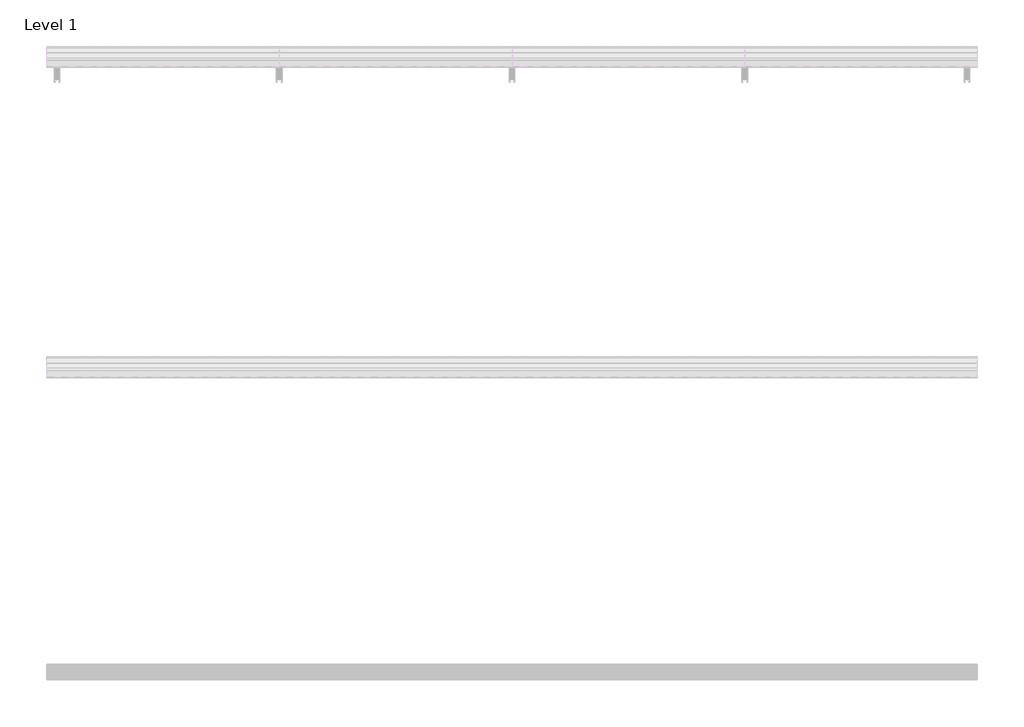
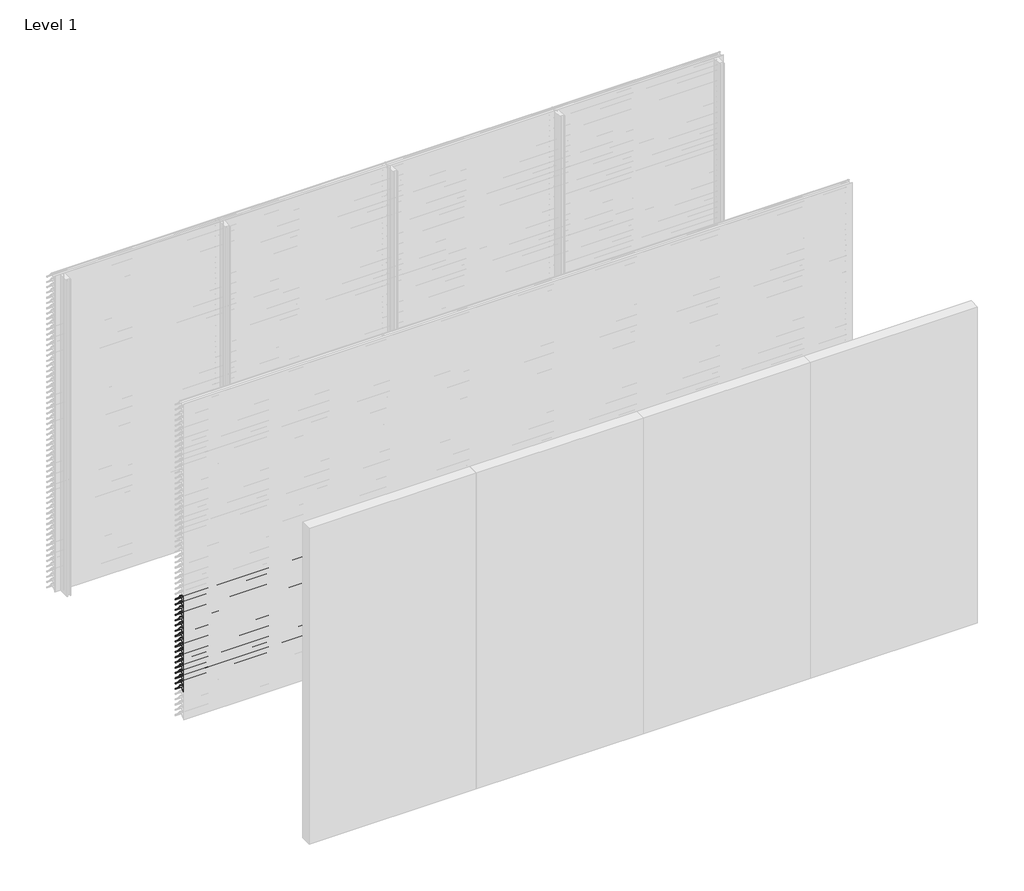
# One storey, part 108 of 173: 18 proxies.
"""IFC4 building model written with IfcOpenShell, lengths in millimetres."""

from ifc_helpers import new_model, si_unit, point, frame, frame_2d, origin, place, context, project, spatial, polyline, circle_curve, trimmed, segment, composite_curve, outline, extrude, element, save

model = new_model("IFC4")

# Units and contexts
model_context = context("Model", 3, world=origin())
ifc_project = project(units=[si_unit("LENGTHUNIT", "METRE", prefix="MILLI")], contexts=[model_context])

# Site, building, storey
site = spatial("IfcSite", under=ifc_project)
building = spatial("IfcBuilding", under=site)
storey = spatial("IfcBuildingStorey", under=building, Name="Level 1", Elevation=0.0)

# Proxies
placement = place(None, origin())
element("IfcBuildingElementProxy", 1, Name="Wall Sweeps", at=placement, inside=storey, context=model_context, shape_type="SweptSolid", body=[
    extrude(outline(composite_curve([segment(polyline([(-19998.0, 1109.1474905), (-19998.0, 1111.6227417)]), True, "CONTINUOUS"), segment(trimmed(circle_curve(frame_2d((-19951.2682172, 1066.2200208)), 65.1557103), [point((-19998.0, 1111.6227417))], [point((-19954.4014323, 1131.3003524))], False, "CARTESIAN"), True, "CONTINUOUS"), segment(polyline([(-19954.4014323, 1131.3003524), (-19934.8315836, 1131.3003524)]), True, "CONTINUOUS"), segment(trimmed(circle_curve(frame_2d((-19732.7329489, 1278.5533172)), 250.0545817), [point((-19934.8315836, 1131.3003524))], [point((-19941.4452143, 1140.8344583))], False, "CARTESIAN"), True, "CONTINUOUS"), segment(trimmed(circle_curve(frame_2d((-19953.2981792, 1135.1737835)), 13.1352966), [point((-19941.4452143, 1140.8344583))], [point((-19953.8171475, 1148.298824))], True, "CARTESIAN"), True, "CONTINUOUS"), segment(polyline([(-19953.8171475, 1148.298824), (-19953.8171475, 1150.0)]), True, "CONTINUOUS"), segment(trimmed(circle_curve(frame_2d((-19953.2981792, 1135.1737835)), 14.8352966), [point((-19953.8171475, 1150.0))], [point((-19939.9637661, 1141.6760487))], False, "CARTESIAN"), True, "CONTINUOUS"), segment(trimmed(circle_curve(frame_2d((-19732.7329489, 1278.5533172)), 248.3545817), [point((-19939.9637661, 1141.6760487))], [point((-19873.8787895, 1074.2059416))], True, "CARTESIAN"), True, "CONTINUOUS"), segment(trimmed(circle_curve(frame_2d((-19883.8147537, 1061.6649442)), 16.0), [point((-19873.8787895, 1074.2059416))], [point((-19867.8648347, 1060.4))], False, "CARTESIAN"), True, "CONTINUOUS"), segment(polyline([(-19867.8648347, 1060.4), (-19869.6712069, 1060.4)]), True, "CONTINUOUS"), segment(trimmed(circle_curve(frame_2d((-19883.8147537, 1061.6649442)), 14.2), [point((-19869.6712069, 1060.4))], [point((-19874.9518628, 1072.7594998))], True, "CARTESIAN"), True, "CONTINUOUS"), segment(trimmed(circle_curve(frame_2d((-19732.7329489, 1278.5533172)), 250.1545817), [point((-19874.9518628, 1072.7594998))], [point((-19933.7064024, 1129.6003524))], False, "CARTESIAN"), True, "CONTINUOUS"), segment(polyline([(-19933.7064024, 1129.6003524), (-19954.3602632, 1129.6003524)]), True, "CONTINUOUS"), segment(trimmed(circle_curve(frame_2d((-19951.2682172, 1066.2200208)), 63.4557103), [point((-19954.3602632, 1129.6003524))], [point((-19998.0, 1109.1474905))], True, "CARTESIAN"), True, "CONTINUOUS")], self_intersect=False)), frame((0.0, 0.0, 0.0), z_axis=(1.0, 0.0, 0.0), x_axis=(0.0, 1.0, 0.0)), (0.0, 0.0, 1.0), 6000.0),
])
element("IfcBuildingElementProxy", 2, Name="Wall Sweeps", at=placement, inside=storey, context=model_context, shape_type="SweptSolid", body=[
    extrude(outline(composite_curve([segment(polyline([(-19998.0, 1059.1474905), (-19998.0, 1061.6227417)]), True, "CONTINUOUS"), segment(trimmed(circle_curve(frame_2d((-19951.2682172, 1016.2200208)), 65.1557103), [point((-19998.0, 1061.6227417))], [point((-19954.4014323, 1081.3003524))], False, "CARTESIAN"), True, "CONTINUOUS"), segment(polyline([(-19954.4014323, 1081.3003524), (-19934.8315836, 1081.3003524)]), True, "CONTINUOUS"), segment(trimmed(circle_curve(frame_2d((-19732.7329489, 1228.5533172)), 250.0545817), [point((-19934.8315836, 1081.3003524))], [point((-19941.4452143, 1090.8344583))], False, "CARTESIAN"), True, "CONTINUOUS"), segment(trimmed(circle_curve(frame_2d((-19953.2981792, 1085.1737835)), 13.1352966), [point((-19941.4452143, 1090.8344583))], [point((-19953.8171475, 1098.298824))], True, "CARTESIAN"), True, "CONTINUOUS"), segment(polyline([(-19953.8171475, 1098.298824), (-19953.8171475, 1100.0)]), True, "CONTINUOUS"), segment(trimmed(circle_curve(frame_2d((-19953.2981792, 1085.1737835)), 14.8352966), [point((-19953.8171475, 1100.0))], [point((-19939.9637661, 1091.6760487))], False, "CARTESIAN"), True, "CONTINUOUS"), segment(trimmed(circle_curve(frame_2d((-19732.7329489, 1228.5533172)), 248.3545817), [point((-19939.9637661, 1091.6760487))], [point((-19873.8787895, 1024.2059416))], True, "CARTESIAN"), True, "CONTINUOUS"), segment(trimmed(circle_curve(frame_2d((-19883.8147537, 1011.6649442)), 16.0), [point((-19873.8787895, 1024.2059416))], [point((-19867.8648347, 1010.4))], False, "CARTESIAN"), True, "CONTINUOUS"), segment(polyline([(-19867.8648347, 1010.4), (-19869.6712069, 1010.4)]), True, "CONTINUOUS"), segment(trimmed(circle_curve(frame_2d((-19883.8147537, 1011.6649442)), 14.2), [point((-19869.6712069, 1010.4))], [point((-19874.9518628, 1022.7594998))], True, "CARTESIAN"), True, "CONTINUOUS"), segment(trimmed(circle_curve(frame_2d((-19732.7329489, 1228.5533172)), 250.1545817), [point((-19874.9518628, 1022.7594998))], [point((-19933.7064024, 1079.6003524))], False, "CARTESIAN"), True, "CONTINUOUS"), segment(polyline([(-19933.7064024, 1079.6003524), (-19954.3602632, 1079.6003524)]), True, "CONTINUOUS"), segment(trimmed(circle_curve(frame_2d((-19951.2682172, 1016.2200208)), 63.4557103), [point((-19954.3602632, 1079.6003524))], [point((-19998.0, 1059.1474905))], True, "CARTESIAN"), True, "CONTINUOUS")], self_intersect=False)), frame((0.0, 0.0, 0.0), z_axis=(1.0, 0.0, 0.0), x_axis=(0.0, 1.0, 0.0)), (0.0, 0.0, 1.0), 6000.0),
])
element("IfcBuildingElementProxy", 3, Name="Wall Sweeps", at=placement, inside=storey, context=model_context, shape_type="SweptSolid", body=[
    extrude(outline(composite_curve([segment(polyline([(-19998.0, 1009.1474905), (-19998.0, 1011.6227417)]), True, "CONTINUOUS"), segment(trimmed(circle_curve(frame_2d((-19951.2682172, 966.2200208)), 65.1557103), [point((-19998.0, 1011.6227417))], [point((-19954.4014323, 1031.3003524))], False, "CARTESIAN"), True, "CONTINUOUS"), segment(polyline([(-19954.4014323, 1031.3003524), (-19934.8315836, 1031.3003524)]), True, "CONTINUOUS"), segment(trimmed(circle_curve(frame_2d((-19732.7329489, 1178.5533172)), 250.0545817), [point((-19934.8315836, 1031.3003524))], [point((-19941.4452143, 1040.8344583))], False, "CARTESIAN"), True, "CONTINUOUS"), segment(trimmed(circle_curve(frame_2d((-19953.2981792, 1035.1737835)), 13.1352966), [point((-19941.4452143, 1040.8344583))], [point((-19953.8171475, 1048.298824))], True, "CARTESIAN"), True, "CONTINUOUS"), segment(polyline([(-19953.8171475, 1048.298824), (-19953.8171475, 1050.0)]), True, "CONTINUOUS"), segment(trimmed(circle_curve(frame_2d((-19953.2981792, 1035.1737835)), 14.8352966), [point((-19953.8171475, 1050.0))], [point((-19939.9637661, 1041.6760487))], False, "CARTESIAN"), True, "CONTINUOUS"), segment(trimmed(circle_curve(frame_2d((-19732.7329489, 1178.5533172)), 248.3545817), [point((-19939.9637661, 1041.6760487))], [point((-19873.8787895, 974.2059416))], True, "CARTESIAN"), True, "CONTINUOUS"), segment(trimmed(circle_curve(frame_2d((-19883.8147537, 961.6649442)), 16.0), [point((-19873.8787895, 974.2059416))], [point((-19867.8648347, 960.4))], False, "CARTESIAN"), True, "CONTINUOUS"), segment(polyline([(-19867.8648347, 960.4), (-19869.6712069, 960.4)]), True, "CONTINUOUS"), segment(trimmed(circle_curve(frame_2d((-19883.8147537, 961.6649442)), 14.2), [point((-19869.6712069, 960.4))], [point((-19874.9518628, 972.7594998))], True, "CARTESIAN"), True, "CONTINUOUS"), segment(trimmed(circle_curve(frame_2d((-19732.7329489, 1178.5533172)), 250.1545817), [point((-19874.9518628, 972.7594998))], [point((-19933.7064024, 1029.6003524))], False, "CARTESIAN"), True, "CONTINUOUS"), segment(polyline([(-19933.7064024, 1029.6003524), (-19954.3602632, 1029.6003524)]), True, "CONTINUOUS"), segment(trimmed(circle_curve(frame_2d((-19951.2682172, 966.2200208)), 63.4557103), [point((-19954.3602632, 1029.6003524))], [point((-19998.0, 1009.1474905))], True, "CARTESIAN"), True, "CONTINUOUS")], self_intersect=False)), frame((0.0, 0.0, 0.0), z_axis=(1.0, 0.0, 0.0), x_axis=(0.0, 1.0, 0.0)), (0.0, 0.0, 1.0), 6000.0),
])
element("IfcBuildingElementProxy", 4, Name="Wall Sweeps", at=placement, inside=storey, context=model_context, shape_type="SweptSolid", body=[
    extrude(outline(composite_curve([segment(polyline([(-19998.0, 959.1474905), (-19998.0, 961.6227417)]), True, "CONTINUOUS"), segment(trimmed(circle_curve(frame_2d((-19951.2682172, 916.2200208)), 65.1557103), [point((-19998.0, 961.6227417))], [point((-19954.4014323, 981.3003524))], False, "CARTESIAN"), True, "CONTINUOUS"), segment(polyline([(-19954.4014323, 981.3003524), (-19934.8315836, 981.3003524)]), True, "CONTINUOUS"), segment(trimmed(circle_curve(frame_2d((-19732.7329489, 1128.5533172)), 250.0545817), [point((-19934.8315836, 981.3003524))], [point((-19941.4452143, 990.8344583))], False, "CARTESIAN"), True, "CONTINUOUS"), segment(trimmed(circle_curve(frame_2d((-19953.2981792, 985.1737835)), 13.1352966), [point((-19941.4452143, 990.8344583))], [point((-19953.8171475, 998.298824))], True, "CARTESIAN"), True, "CONTINUOUS"), segment(polyline([(-19953.8171475, 998.298824), (-19953.8171475, 1000.0)]), True, "CONTINUOUS"), segment(trimmed(circle_curve(frame_2d((-19953.2981792, 985.1737835)), 14.8352966), [point((-19953.8171475, 1000.0))], [point((-19939.9637661, 991.6760487))], False, "CARTESIAN"), True, "CONTINUOUS"), segment(trimmed(circle_curve(frame_2d((-19732.7329489, 1128.5533172)), 248.3545817), [point((-19939.9637661, 991.6760487))], [point((-19873.8787895, 924.2059416))], True, "CARTESIAN"), True, "CONTINUOUS"), segment(trimmed(circle_curve(frame_2d((-19883.8147537, 911.6649442)), 16.0), [point((-19873.8787895, 924.2059416))], [point((-19867.8648347, 910.4))], False, "CARTESIAN"), True, "CONTINUOUS"), segment(polyline([(-19867.8648347, 910.4), (-19869.6712069, 910.4)]), True, "CONTINUOUS"), segment(trimmed(circle_curve(frame_2d((-19883.8147537, 911.6649442)), 14.2), [point((-19869.6712069, 910.4))], [point((-19874.9518628, 922.7594998))], True, "CARTESIAN"), True, "CONTINUOUS"), segment(trimmed(circle_curve(frame_2d((-19732.7329489, 1128.5533172)), 250.1545817), [point((-19874.9518628, 922.7594998))], [point((-19933.7064024, 979.6003524))], False, "CARTESIAN"), True, "CONTINUOUS"), segment(polyline([(-19933.7064024, 979.6003524), (-19954.3602632, 979.6003524)]), True, "CONTINUOUS"), segment(trimmed(circle_curve(frame_2d((-19951.2682172, 916.2200208)), 63.4557103), [point((-19954.3602632, 979.6003524))], [point((-19998.0, 959.1474905))], True, "CARTESIAN"), True, "CONTINUOUS")], self_intersect=False)), frame((0.0, 0.0, 0.0), z_axis=(1.0, 0.0, 0.0), x_axis=(0.0, 1.0, 0.0)), (0.0, 0.0, 1.0), 6000.0),
])
element("IfcBuildingElementProxy", 5, Name="Wall Sweeps", at=placement, inside=storey, context=model_context, shape_type="SweptSolid", body=[
    extrude(outline(composite_curve([segment(polyline([(-19998.0, 909.1474905), (-19998.0, 911.6227417)]), True, "CONTINUOUS"), segment(trimmed(circle_curve(frame_2d((-19951.2682172, 866.2200208)), 65.1557103), [point((-19998.0, 911.6227417))], [point((-19954.4014323, 931.3003524))], False, "CARTESIAN"), True, "CONTINUOUS"), segment(polyline([(-19954.4014323, 931.3003524), (-19934.8315836, 931.3003524)]), True, "CONTINUOUS"), segment(trimmed(circle_curve(frame_2d((-19732.7329489, 1078.5533172)), 250.0545817), [point((-19934.8315836, 931.3003524))], [point((-19941.4452143, 940.8344583))], False, "CARTESIAN"), True, "CONTINUOUS"), segment(trimmed(circle_curve(frame_2d((-19953.2981792, 935.1737835)), 13.1352966), [point((-19941.4452143, 940.8344583))], [point((-19953.8171475, 948.298824))], True, "CARTESIAN"), True, "CONTINUOUS"), segment(polyline([(-19953.8171475, 948.298824), (-19953.8171475, 950.0)]), True, "CONTINUOUS"), segment(trimmed(circle_curve(frame_2d((-19953.2981792, 935.1737835)), 14.8352966), [point((-19953.8171475, 950.0))], [point((-19939.9637661, 941.6760487))], False, "CARTESIAN"), True, "CONTINUOUS"), segment(trimmed(circle_curve(frame_2d((-19732.7329489, 1078.5533172)), 248.3545817), [point((-19939.9637661, 941.6760487))], [point((-19873.8787895, 874.2059416))], True, "CARTESIAN"), True, "CONTINUOUS"), segment(trimmed(circle_curve(frame_2d((-19883.8147537, 861.6649442)), 16.0), [point((-19873.8787895, 874.2059416))], [point((-19867.8648347, 860.4))], False, "CARTESIAN"), True, "CONTINUOUS"), segment(polyline([(-19867.8648347, 860.4), (-19869.6712069, 860.4)]), True, "CONTINUOUS"), segment(trimmed(circle_curve(frame_2d((-19883.8147537, 861.6649442)), 14.2), [point((-19869.6712069, 860.4))], [point((-19874.9518628, 872.7594998))], True, "CARTESIAN"), True, "CONTINUOUS"), segment(trimmed(circle_curve(frame_2d((-19732.7329489, 1078.5533172)), 250.1545817), [point((-19874.9518628, 872.7594998))], [point((-19933.7064024, 929.6003524))], False, "CARTESIAN"), True, "CONTINUOUS"), segment(polyline([(-19933.7064024, 929.6003524), (-19954.3602632, 929.6003524)]), True, "CONTINUOUS"), segment(trimmed(circle_curve(frame_2d((-19951.2682172, 866.2200208)), 63.4557103), [point((-19954.3602632, 929.6003524))], [point((-19998.0, 909.1474905))], True, "CARTESIAN"), True, "CONTINUOUS")], self_intersect=False)), frame((0.0, 0.0, 0.0), z_axis=(1.0, 0.0, 0.0), x_axis=(0.0, 1.0, 0.0)), (0.0, 0.0, 1.0), 6000.0),
])
element("IfcBuildingElementProxy", 6, Name="Wall Sweeps", at=placement, inside=storey, context=model_context, shape_type="SweptSolid", body=[
    extrude(outline(composite_curve([segment(polyline([(-19998.0, 859.1474905), (-19998.0, 861.6227417)]), True, "CONTINUOUS"), segment(trimmed(circle_curve(frame_2d((-19951.2682172, 816.2200208)), 65.1557103), [point((-19998.0, 861.6227417))], [point((-19954.4014323, 881.3003524))], False, "CARTESIAN"), True, "CONTINUOUS"), segment(polyline([(-19954.4014323, 881.3003524), (-19934.8315836, 881.3003524)]), True, "CONTINUOUS"), segment(trimmed(circle_curve(frame_2d((-19732.7329489, 1028.5533172)), 250.0545817), [point((-19934.8315836, 881.3003524))], [point((-19941.4452143, 890.8344583))], False, "CARTESIAN"), True, "CONTINUOUS"), segment(trimmed(circle_curve(frame_2d((-19953.2981792, 885.1737835)), 13.1352966), [point((-19941.4452143, 890.8344583))], [point((-19953.8171475, 898.298824))], True, "CARTESIAN"), True, "CONTINUOUS"), segment(polyline([(-19953.8171475, 898.298824), (-19953.8171475, 900.0)]), True, "CONTINUOUS"), segment(trimmed(circle_curve(frame_2d((-19953.2981792, 885.1737835)), 14.8352966), [point((-19953.8171475, 900.0))], [point((-19939.9637661, 891.6760487))], False, "CARTESIAN"), True, "CONTINUOUS"), segment(trimmed(circle_curve(frame_2d((-19732.7329489, 1028.5533172)), 248.3545817), [point((-19939.9637661, 891.6760487))], [point((-19873.8787895, 824.2059416))], True, "CARTESIAN"), True, "CONTINUOUS"), segment(trimmed(circle_curve(frame_2d((-19883.8147537, 811.6649442)), 16.0), [point((-19873.8787895, 824.2059416))], [point((-19867.8648347, 810.4))], False, "CARTESIAN"), True, "CONTINUOUS"), segment(polyline([(-19867.8648347, 810.4), (-19869.6712069, 810.4)]), True, "CONTINUOUS"), segment(trimmed(circle_curve(frame_2d((-19883.8147537, 811.6649442)), 14.2), [point((-19869.6712069, 810.4))], [point((-19874.9518628, 822.7594998))], True, "CARTESIAN"), True, "CONTINUOUS"), segment(trimmed(circle_curve(frame_2d((-19732.7329489, 1028.5533172)), 250.1545817), [point((-19874.9518628, 822.7594998))], [point((-19933.7064024, 879.6003524))], False, "CARTESIAN"), True, "CONTINUOUS"), segment(polyline([(-19933.7064024, 879.6003524), (-19954.3602632, 879.6003524)]), True, "CONTINUOUS"), segment(trimmed(circle_curve(frame_2d((-19951.2682172, 816.2200208)), 63.4557103), [point((-19954.3602632, 879.6003524))], [point((-19998.0, 859.1474905))], True, "CARTESIAN"), True, "CONTINUOUS")], self_intersect=False)), frame((0.0, 0.0, 0.0), z_axis=(1.0, 0.0, 0.0), x_axis=(0.0, 1.0, 0.0)), (0.0, 0.0, 1.0), 6000.0),
])
element("IfcBuildingElementProxy", 7, Name="Wall Sweeps", at=placement, inside=storey, context=model_context, shape_type="SweptSolid", body=[
    extrude(outline(composite_curve([segment(polyline([(-19998.0, 809.1474905), (-19998.0, 811.6227417)]), True, "CONTINUOUS"), segment(trimmed(circle_curve(frame_2d((-19951.2682172, 766.2200208)), 65.1557103), [point((-19998.0, 811.6227417))], [point((-19954.4014323, 831.3003524))], False, "CARTESIAN"), True, "CONTINUOUS"), segment(polyline([(-19954.4014323, 831.3003524), (-19934.8315836, 831.3003524)]), True, "CONTINUOUS"), segment(trimmed(circle_curve(frame_2d((-19732.7329489, 978.5533172)), 250.0545817), [point((-19934.8315836, 831.3003524))], [point((-19941.4452143, 840.8344583))], False, "CARTESIAN"), True, "CONTINUOUS"), segment(trimmed(circle_curve(frame_2d((-19953.2981792, 835.1737835)), 13.1352966), [point((-19941.4452143, 840.8344583))], [point((-19953.8171475, 848.298824))], True, "CARTESIAN"), True, "CONTINUOUS"), segment(polyline([(-19953.8171475, 848.298824), (-19953.8171475, 850.0)]), True, "CONTINUOUS"), segment(trimmed(circle_curve(frame_2d((-19953.2981792, 835.1737835)), 14.8352966), [point((-19953.8171475, 850.0))], [point((-19939.9637661, 841.6760487))], False, "CARTESIAN"), True, "CONTINUOUS"), segment(trimmed(circle_curve(frame_2d((-19732.7329489, 978.5533172)), 248.3545817), [point((-19939.9637661, 841.6760487))], [point((-19873.8787895, 774.2059416))], True, "CARTESIAN"), True, "CONTINUOUS"), segment(trimmed(circle_curve(frame_2d((-19883.8147537, 761.6649442)), 16.0), [point((-19873.8787895, 774.2059416))], [point((-19867.8648347, 760.4))], False, "CARTESIAN"), True, "CONTINUOUS"), segment(polyline([(-19867.8648347, 760.4), (-19869.6712069, 760.4)]), True, "CONTINUOUS"), segment(trimmed(circle_curve(frame_2d((-19883.8147537, 761.6649442)), 14.2), [point((-19869.6712069, 760.4))], [point((-19874.9518628, 772.7594998))], True, "CARTESIAN"), True, "CONTINUOUS"), segment(trimmed(circle_curve(frame_2d((-19732.7329489, 978.5533172)), 250.1545817), [point((-19874.9518628, 772.7594998))], [point((-19933.7064024, 829.6003524))], False, "CARTESIAN"), True, "CONTINUOUS"), segment(polyline([(-19933.7064024, 829.6003524), (-19954.3602632, 829.6003524)]), True, "CONTINUOUS"), segment(trimmed(circle_curve(frame_2d((-19951.2682172, 766.2200208)), 63.4557103), [point((-19954.3602632, 829.6003524))], [point((-19998.0, 809.1474905))], True, "CARTESIAN"), True, "CONTINUOUS")], self_intersect=False)), frame((0.0, 0.0, 0.0), z_axis=(1.0, 0.0, 0.0), x_axis=(0.0, 1.0, 0.0)), (0.0, 0.0, 1.0), 6000.0),
])
element("IfcBuildingElementProxy", 8, Name="Wall Sweeps", at=placement, inside=storey, context=model_context, shape_type="SweptSolid", body=[
    extrude(outline(composite_curve([segment(polyline([(-19998.0, 759.1474905), (-19998.0, 761.6227417)]), True, "CONTINUOUS"), segment(trimmed(circle_curve(frame_2d((-19951.2682172, 716.2200208)), 65.1557103), [point((-19998.0, 761.6227417))], [point((-19954.4014323, 781.3003524))], False, "CARTESIAN"), True, "CONTINUOUS"), segment(polyline([(-19954.4014323, 781.3003524), (-19934.8315836, 781.3003524)]), True, "CONTINUOUS"), segment(trimmed(circle_curve(frame_2d((-19732.7329489, 928.5533172)), 250.0545817), [point((-19934.8315836, 781.3003524))], [point((-19941.4452143, 790.8344583))], False, "CARTESIAN"), True, "CONTINUOUS"), segment(trimmed(circle_curve(frame_2d((-19953.2981792, 785.1737835)), 13.1352966), [point((-19941.4452143, 790.8344583))], [point((-19953.8171475, 798.298824))], True, "CARTESIAN"), True, "CONTINUOUS"), segment(polyline([(-19953.8171475, 798.298824), (-19953.8171475, 800.0)]), True, "CONTINUOUS"), segment(trimmed(circle_curve(frame_2d((-19953.2981792, 785.1737835)), 14.8352966), [point((-19953.8171475, 800.0))], [point((-19939.9637661, 791.6760487))], False, "CARTESIAN"), True, "CONTINUOUS"), segment(trimmed(circle_curve(frame_2d((-19732.7329489, 928.5533172)), 248.3545817), [point((-19939.9637661, 791.6760487))], [point((-19873.8787895, 724.2059416))], True, "CARTESIAN"), True, "CONTINUOUS"), segment(trimmed(circle_curve(frame_2d((-19883.8147537, 711.6649442)), 16.0), [point((-19873.8787895, 724.2059416))], [point((-19867.8648347, 710.4))], False, "CARTESIAN"), True, "CONTINUOUS"), segment(polyline([(-19867.8648347, 710.4), (-19869.6712069, 710.4)]), True, "CONTINUOUS"), segment(trimmed(circle_curve(frame_2d((-19883.8147537, 711.6649442)), 14.2), [point((-19869.6712069, 710.4))], [point((-19874.9518628, 722.7594998))], True, "CARTESIAN"), True, "CONTINUOUS"), segment(trimmed(circle_curve(frame_2d((-19732.7329489, 928.5533172)), 250.1545817), [point((-19874.9518628, 722.7594998))], [point((-19933.7064024, 779.6003524))], False, "CARTESIAN"), True, "CONTINUOUS"), segment(polyline([(-19933.7064024, 779.6003524), (-19954.3602632, 779.6003524)]), True, "CONTINUOUS"), segment(trimmed(circle_curve(frame_2d((-19951.2682172, 716.2200208)), 63.4557103), [point((-19954.3602632, 779.6003524))], [point((-19998.0, 759.1474905))], True, "CARTESIAN"), True, "CONTINUOUS")], self_intersect=False)), frame((0.0, 0.0, 0.0), z_axis=(1.0, 0.0, 0.0), x_axis=(0.0, 1.0, 0.0)), (0.0, 0.0, 1.0), 6000.0),
])
element("IfcBuildingElementProxy", 9, Name="Wall Sweeps", at=placement, inside=storey, context=model_context, shape_type="SweptSolid", body=[
    extrude(outline(composite_curve([segment(polyline([(-19998.0, 709.1474905), (-19998.0, 711.6227417)]), True, "CONTINUOUS"), segment(trimmed(circle_curve(frame_2d((-19951.2682172, 666.2200208)), 65.1557103), [point((-19998.0, 711.6227417))], [point((-19954.4014323, 731.3003524))], False, "CARTESIAN"), True, "CONTINUOUS"), segment(polyline([(-19954.4014323, 731.3003524), (-19934.8315836, 731.3003524)]), True, "CONTINUOUS"), segment(trimmed(circle_curve(frame_2d((-19732.7329489, 878.5533172)), 250.0545817), [point((-19934.8315836, 731.3003524))], [point((-19941.4452143, 740.8344583))], False, "CARTESIAN"), True, "CONTINUOUS"), segment(trimmed(circle_curve(frame_2d((-19953.2981792, 735.1737835)), 13.1352966), [point((-19941.4452143, 740.8344583))], [point((-19953.8171475, 748.298824))], True, "CARTESIAN"), True, "CONTINUOUS"), segment(polyline([(-19953.8171475, 748.298824), (-19953.8171475, 750.0)]), True, "CONTINUOUS"), segment(trimmed(circle_curve(frame_2d((-19953.2981792, 735.1737835)), 14.8352966), [point((-19953.8171475, 750.0))], [point((-19939.9637661, 741.6760487))], False, "CARTESIAN"), True, "CONTINUOUS"), segment(trimmed(circle_curve(frame_2d((-19732.7329489, 878.5533172)), 248.3545817), [point((-19939.9637661, 741.6760487))], [point((-19873.8787895, 674.2059416))], True, "CARTESIAN"), True, "CONTINUOUS"), segment(trimmed(circle_curve(frame_2d((-19883.8147537, 661.6649442)), 16.0), [point((-19873.8787895, 674.2059416))], [point((-19867.8648347, 660.4))], False, "CARTESIAN"), True, "CONTINUOUS"), segment(polyline([(-19867.8648347, 660.4), (-19869.6712069, 660.4)]), True, "CONTINUOUS"), segment(trimmed(circle_curve(frame_2d((-19883.8147537, 661.6649442)), 14.2), [point((-19869.6712069, 660.4))], [point((-19874.9518628, 672.7594998))], True, "CARTESIAN"), True, "CONTINUOUS"), segment(trimmed(circle_curve(frame_2d((-19732.7329489, 878.5533172)), 250.1545817), [point((-19874.9518628, 672.7594998))], [point((-19933.7064024, 729.6003524))], False, "CARTESIAN"), True, "CONTINUOUS"), segment(polyline([(-19933.7064024, 729.6003524), (-19954.3602632, 729.6003524)]), True, "CONTINUOUS"), segment(trimmed(circle_curve(frame_2d((-19951.2682172, 666.2200208)), 63.4557103), [point((-19954.3602632, 729.6003524))], [point((-19998.0, 709.1474905))], True, "CARTESIAN"), True, "CONTINUOUS")], self_intersect=False)), frame((0.0, 0.0, 0.0), z_axis=(1.0, 0.0, 0.0), x_axis=(0.0, 1.0, 0.0)), (0.0, 0.0, 1.0), 6000.0),
])
element("IfcBuildingElementProxy", 10, Name="Wall Sweeps", at=placement, inside=storey, context=model_context, shape_type="SweptSolid", body=[
    extrude(outline(composite_curve([segment(polyline([(-19998.0, 659.1474905), (-19998.0, 661.6227417)]), True, "CONTINUOUS"), segment(trimmed(circle_curve(frame_2d((-19951.2682172, 616.2200208)), 65.1557103), [point((-19998.0, 661.6227417))], [point((-19954.4014323, 681.3003524))], False, "CARTESIAN"), True, "CONTINUOUS"), segment(polyline([(-19954.4014323, 681.3003524), (-19934.8315836, 681.3003524)]), True, "CONTINUOUS"), segment(trimmed(circle_curve(frame_2d((-19732.7329489, 828.5533172)), 250.0545817), [point((-19934.8315836, 681.3003524))], [point((-19941.4452143, 690.8344583))], False, "CARTESIAN"), True, "CONTINUOUS"), segment(trimmed(circle_curve(frame_2d((-19953.2981792, 685.1737835)), 13.1352966), [point((-19941.4452143, 690.8344583))], [point((-19953.8171475, 698.298824))], True, "CARTESIAN"), True, "CONTINUOUS"), segment(polyline([(-19953.8171475, 698.298824), (-19953.8171475, 700.0)]), True, "CONTINUOUS"), segment(trimmed(circle_curve(frame_2d((-19953.2981792, 685.1737835)), 14.8352966), [point((-19953.8171475, 700.0))], [point((-19939.9637661, 691.6760487))], False, "CARTESIAN"), True, "CONTINUOUS"), segment(trimmed(circle_curve(frame_2d((-19732.7329489, 828.5533172)), 248.3545817), [point((-19939.9637661, 691.6760487))], [point((-19873.8787895, 624.2059416))], True, "CARTESIAN"), True, "CONTINUOUS"), segment(trimmed(circle_curve(frame_2d((-19883.8147537, 611.6649442)), 16.0), [point((-19873.8787895, 624.2059416))], [point((-19867.8648347, 610.4))], False, "CARTESIAN"), True, "CONTINUOUS"), segment(polyline([(-19867.8648347, 610.4), (-19869.6712069, 610.4)]), True, "CONTINUOUS"), segment(trimmed(circle_curve(frame_2d((-19883.8147537, 611.6649442)), 14.2), [point((-19869.6712069, 610.4))], [point((-19874.9518628, 622.7594998))], True, "CARTESIAN"), True, "CONTINUOUS"), segment(trimmed(circle_curve(frame_2d((-19732.7329489, 828.5533172)), 250.1545817), [point((-19874.9518628, 622.7594998))], [point((-19933.7064024, 679.6003524))], False, "CARTESIAN"), True, "CONTINUOUS"), segment(polyline([(-19933.7064024, 679.6003524), (-19954.3602632, 679.6003524)]), True, "CONTINUOUS"), segment(trimmed(circle_curve(frame_2d((-19951.2682172, 616.2200208)), 63.4557103), [point((-19954.3602632, 679.6003524))], [point((-19998.0, 659.1474905))], True, "CARTESIAN"), True, "CONTINUOUS")], self_intersect=False)), frame((0.0, 0.0, 0.0), z_axis=(1.0, 0.0, 0.0), x_axis=(0.0, 1.0, 0.0)), (0.0, 0.0, 1.0), 6000.0),
])
element("IfcBuildingElementProxy", 11, Name="Wall Sweeps", at=placement, inside=storey, context=model_context, shape_type="SweptSolid", body=[
    extrude(outline(composite_curve([segment(polyline([(-19998.0, 609.1474905), (-19998.0, 611.6227417)]), True, "CONTINUOUS"), segment(trimmed(circle_curve(frame_2d((-19951.2682172, 566.2200208)), 65.1557103), [point((-19998.0, 611.6227417))], [point((-19954.4014323, 631.3003524))], False, "CARTESIAN"), True, "CONTINUOUS"), segment(polyline([(-19954.4014323, 631.3003524), (-19934.8315836, 631.3003524)]), True, "CONTINUOUS"), segment(trimmed(circle_curve(frame_2d((-19732.7329489, 778.5533172)), 250.0545817), [point((-19934.8315836, 631.3003524))], [point((-19941.4452143, 640.8344583))], False, "CARTESIAN"), True, "CONTINUOUS"), segment(trimmed(circle_curve(frame_2d((-19953.2981792, 635.1737835)), 13.1352966), [point((-19941.4452143, 640.8344583))], [point((-19953.8171475, 648.298824))], True, "CARTESIAN"), True, "CONTINUOUS"), segment(polyline([(-19953.8171475, 648.298824), (-19953.8171475, 650.0)]), True, "CONTINUOUS"), segment(trimmed(circle_curve(frame_2d((-19953.2981792, 635.1737835)), 14.8352966), [point((-19953.8171475, 650.0))], [point((-19939.9637661, 641.6760487))], False, "CARTESIAN"), True, "CONTINUOUS"), segment(trimmed(circle_curve(frame_2d((-19732.7329489, 778.5533172)), 248.3545817), [point((-19939.9637661, 641.6760487))], [point((-19873.8787895, 574.2059416))], True, "CARTESIAN"), True, "CONTINUOUS"), segment(trimmed(circle_curve(frame_2d((-19883.8147537, 561.6649442)), 16.0), [point((-19873.8787895, 574.2059416))], [point((-19867.8648347, 560.4))], False, "CARTESIAN"), True, "CONTINUOUS"), segment(polyline([(-19867.8648347, 560.4), (-19869.6712069, 560.4)]), True, "CONTINUOUS"), segment(trimmed(circle_curve(frame_2d((-19883.8147537, 561.6649442)), 14.2), [point((-19869.6712069, 560.4))], [point((-19874.9518628, 572.7594998))], True, "CARTESIAN"), True, "CONTINUOUS"), segment(trimmed(circle_curve(frame_2d((-19732.7329489, 778.5533172)), 250.1545817), [point((-19874.9518628, 572.7594998))], [point((-19933.7064024, 629.6003524))], False, "CARTESIAN"), True, "CONTINUOUS"), segment(polyline([(-19933.7064024, 629.6003524), (-19954.3602632, 629.6003524)]), True, "CONTINUOUS"), segment(trimmed(circle_curve(frame_2d((-19951.2682172, 566.2200208)), 63.4557103), [point((-19954.3602632, 629.6003524))], [point((-19998.0, 609.1474905))], True, "CARTESIAN"), True, "CONTINUOUS")], self_intersect=False)), frame((0.0, 0.0, 0.0), z_axis=(1.0, 0.0, 0.0), x_axis=(0.0, 1.0, 0.0)), (0.0, 0.0, 1.0), 6000.0),
])
element("IfcBuildingElementProxy", 12, Name="Wall Sweeps", at=placement, inside=storey, context=model_context, shape_type="SweptSolid", body=[
    extrude(outline(composite_curve([segment(polyline([(-19998.0, 559.1474905), (-19998.0, 561.6227417)]), True, "CONTINUOUS"), segment(trimmed(circle_curve(frame_2d((-19951.2682172, 516.2200208)), 65.1557103), [point((-19998.0, 561.6227417))], [point((-19954.4014323, 581.3003524))], False, "CARTESIAN"), True, "CONTINUOUS"), segment(polyline([(-19954.4014323, 581.3003524), (-19934.8315836, 581.3003524)]), True, "CONTINUOUS"), segment(trimmed(circle_curve(frame_2d((-19732.7329489, 728.5533172)), 250.0545817), [point((-19934.8315836, 581.3003524))], [point((-19941.4452143, 590.8344583))], False, "CARTESIAN"), True, "CONTINUOUS"), segment(trimmed(circle_curve(frame_2d((-19953.2981792, 585.1737835)), 13.1352966), [point((-19941.4452143, 590.8344583))], [point((-19953.8171475, 598.298824))], True, "CARTESIAN"), True, "CONTINUOUS"), segment(polyline([(-19953.8171475, 598.298824), (-19953.8171475, 600.0)]), True, "CONTINUOUS"), segment(trimmed(circle_curve(frame_2d((-19953.2981792, 585.1737835)), 14.8352966), [point((-19953.8171475, 600.0))], [point((-19939.9637661, 591.6760487))], False, "CARTESIAN"), True, "CONTINUOUS"), segment(trimmed(circle_curve(frame_2d((-19732.7329489, 728.5533172)), 248.3545817), [point((-19939.9637661, 591.6760487))], [point((-19873.8787895, 524.2059416))], True, "CARTESIAN"), True, "CONTINUOUS"), segment(trimmed(circle_curve(frame_2d((-19883.8147537, 511.6649442)), 16.0), [point((-19873.8787895, 524.2059416))], [point((-19867.8648347, 510.4))], False, "CARTESIAN"), True, "CONTINUOUS"), segment(polyline([(-19867.8648347, 510.4), (-19869.6712069, 510.4)]), True, "CONTINUOUS"), segment(trimmed(circle_curve(frame_2d((-19883.8147537, 511.6649442)), 14.2), [point((-19869.6712069, 510.4))], [point((-19874.9518628, 522.7594998))], True, "CARTESIAN"), True, "CONTINUOUS"), segment(trimmed(circle_curve(frame_2d((-19732.7329489, 728.5533172)), 250.1545817), [point((-19874.9518628, 522.7594998))], [point((-19933.7064024, 579.6003524))], False, "CARTESIAN"), True, "CONTINUOUS"), segment(polyline([(-19933.7064024, 579.6003524), (-19954.3602632, 579.6003524)]), True, "CONTINUOUS"), segment(trimmed(circle_curve(frame_2d((-19951.2682172, 516.2200208)), 63.4557103), [point((-19954.3602632, 579.6003524))], [point((-19998.0, 559.1474905))], True, "CARTESIAN"), True, "CONTINUOUS")], self_intersect=False)), frame((0.0, 0.0, 0.0), z_axis=(1.0, 0.0, 0.0), x_axis=(0.0, 1.0, 0.0)), (0.0, 0.0, 1.0), 6000.0),
])
element("IfcBuildingElementProxy", 13, Name="Wall Sweeps", at=placement, inside=storey, context=model_context, shape_type="SweptSolid", body=[
    extrude(outline(composite_curve([segment(polyline([(-19998.0, 509.1474905), (-19998.0, 511.6227417)]), True, "CONTINUOUS"), segment(trimmed(circle_curve(frame_2d((-19951.2682172, 466.2200208)), 65.1557103), [point((-19998.0, 511.6227417))], [point((-19954.4014323, 531.3003524))], False, "CARTESIAN"), True, "CONTINUOUS"), segment(polyline([(-19954.4014323, 531.3003524), (-19934.8315836, 531.3003524)]), True, "CONTINUOUS"), segment(trimmed(circle_curve(frame_2d((-19732.7329489, 678.5533172)), 250.0545817), [point((-19934.8315836, 531.3003524))], [point((-19941.4452143, 540.8344583))], False, "CARTESIAN"), True, "CONTINUOUS"), segment(trimmed(circle_curve(frame_2d((-19953.2981792, 535.1737835)), 13.1352966), [point((-19941.4452143, 540.8344583))], [point((-19953.8171475, 548.298824))], True, "CARTESIAN"), True, "CONTINUOUS"), segment(polyline([(-19953.8171475, 548.298824), (-19953.8171475, 550.0)]), True, "CONTINUOUS"), segment(trimmed(circle_curve(frame_2d((-19953.2981792, 535.1737835)), 14.8352966), [point((-19953.8171475, 550.0))], [point((-19939.9637661, 541.6760487))], False, "CARTESIAN"), True, "CONTINUOUS"), segment(trimmed(circle_curve(frame_2d((-19732.7329489, 678.5533172)), 248.3545817), [point((-19939.9637661, 541.6760487))], [point((-19873.8787895, 474.2059416))], True, "CARTESIAN"), True, "CONTINUOUS"), segment(trimmed(circle_curve(frame_2d((-19883.8147537, 461.6649442)), 16.0), [point((-19873.8787895, 474.2059416))], [point((-19867.8648347, 460.4))], False, "CARTESIAN"), True, "CONTINUOUS"), segment(polyline([(-19867.8648347, 460.4), (-19869.6712069, 460.4)]), True, "CONTINUOUS"), segment(trimmed(circle_curve(frame_2d((-19883.8147537, 461.6649442)), 14.2), [point((-19869.6712069, 460.4))], [point((-19874.9518628, 472.7594998))], True, "CARTESIAN"), True, "CONTINUOUS"), segment(trimmed(circle_curve(frame_2d((-19732.7329489, 678.5533172)), 250.1545817), [point((-19874.9518628, 472.7594998))], [point((-19933.7064024, 529.6003524))], False, "CARTESIAN"), True, "CONTINUOUS"), segment(polyline([(-19933.7064024, 529.6003524), (-19954.3602632, 529.6003524)]), True, "CONTINUOUS"), segment(trimmed(circle_curve(frame_2d((-19951.2682172, 466.2200208)), 63.4557103), [point((-19954.3602632, 529.6003524))], [point((-19998.0, 509.1474905))], True, "CARTESIAN"), True, "CONTINUOUS")], self_intersect=False)), frame((0.0, 0.0, 0.0), z_axis=(1.0, 0.0, 0.0), x_axis=(0.0, 1.0, 0.0)), (0.0, 0.0, 1.0), 6000.0),
])
element("IfcBuildingElementProxy", 14, Name="Wall Sweeps", at=placement, inside=storey, context=model_context, shape_type="SweptSolid", body=[
    extrude(outline(composite_curve([segment(polyline([(-19998.0, 459.1474905), (-19998.0, 461.6227417)]), True, "CONTINUOUS"), segment(trimmed(circle_curve(frame_2d((-19951.2682172, 416.2200208)), 65.1557103), [point((-19998.0, 461.6227417))], [point((-19954.4014323, 481.3003524))], False, "CARTESIAN"), True, "CONTINUOUS"), segment(polyline([(-19954.4014323, 481.3003524), (-19934.8315836, 481.3003524)]), True, "CONTINUOUS"), segment(trimmed(circle_curve(frame_2d((-19732.7329489, 628.5533172)), 250.0545817), [point((-19934.8315836, 481.3003524))], [point((-19941.4452143, 490.8344583))], False, "CARTESIAN"), True, "CONTINUOUS"), segment(trimmed(circle_curve(frame_2d((-19953.2981792, 485.1737835)), 13.1352966), [point((-19941.4452143, 490.8344583))], [point((-19953.8171475, 498.298824))], True, "CARTESIAN"), True, "CONTINUOUS"), segment(polyline([(-19953.8171475, 498.298824), (-19953.8171475, 500.0)]), True, "CONTINUOUS"), segment(trimmed(circle_curve(frame_2d((-19953.2981792, 485.1737835)), 14.8352966), [point((-19953.8171475, 500.0))], [point((-19939.9637661, 491.6760487))], False, "CARTESIAN"), True, "CONTINUOUS"), segment(trimmed(circle_curve(frame_2d((-19732.7329489, 628.5533172)), 248.3545817), [point((-19939.9637661, 491.6760487))], [point((-19873.8787895, 424.2059416))], True, "CARTESIAN"), True, "CONTINUOUS"), segment(trimmed(circle_curve(frame_2d((-19883.8147537, 411.6649442)), 16.0), [point((-19873.8787895, 424.2059416))], [point((-19867.8648347, 410.4))], False, "CARTESIAN"), True, "CONTINUOUS"), segment(polyline([(-19867.8648347, 410.4), (-19869.6712069, 410.4)]), True, "CONTINUOUS"), segment(trimmed(circle_curve(frame_2d((-19883.8147537, 411.6649442)), 14.2), [point((-19869.6712069, 410.4))], [point((-19874.9518628, 422.7594998))], True, "CARTESIAN"), True, "CONTINUOUS"), segment(trimmed(circle_curve(frame_2d((-19732.7329489, 628.5533172)), 250.1545817), [point((-19874.9518628, 422.7594998))], [point((-19933.7064024, 479.6003524))], False, "CARTESIAN"), True, "CONTINUOUS"), segment(polyline([(-19933.7064024, 479.6003524), (-19954.3602632, 479.6003524)]), True, "CONTINUOUS"), segment(trimmed(circle_curve(frame_2d((-19951.2682172, 416.2200208)), 63.4557103), [point((-19954.3602632, 479.6003524))], [point((-19998.0, 459.1474905))], True, "CARTESIAN"), True, "CONTINUOUS")], self_intersect=False)), frame((0.0, 0.0, 0.0), z_axis=(1.0, 0.0, 0.0), x_axis=(0.0, 1.0, 0.0)), (0.0, 0.0, 1.0), 6000.0),
])
element("IfcBuildingElementProxy", 15, Name="Wall Sweeps", at=placement, inside=storey, context=model_context, shape_type="SweptSolid", body=[
    extrude(outline(composite_curve([segment(polyline([(-19998.0, 409.1474905), (-19998.0, 411.6227417)]), True, "CONTINUOUS"), segment(trimmed(circle_curve(frame_2d((-19951.2682172, 366.2200208)), 65.1557103), [point((-19998.0, 411.6227417))], [point((-19954.4014323, 431.3003524))], False, "CARTESIAN"), True, "CONTINUOUS"), segment(polyline([(-19954.4014323, 431.3003524), (-19934.8315836, 431.3003524)]), True, "CONTINUOUS"), segment(trimmed(circle_curve(frame_2d((-19732.7329489, 578.5533172)), 250.0545817), [point((-19934.8315836, 431.3003524))], [point((-19941.4452143, 440.8344583))], False, "CARTESIAN"), True, "CONTINUOUS"), segment(trimmed(circle_curve(frame_2d((-19953.2981792, 435.1737835)), 13.1352966), [point((-19941.4452143, 440.8344583))], [point((-19953.8171475, 448.298824))], True, "CARTESIAN"), True, "CONTINUOUS"), segment(polyline([(-19953.8171475, 448.298824), (-19953.8171475, 450.0)]), True, "CONTINUOUS"), segment(trimmed(circle_curve(frame_2d((-19953.2981792, 435.1737835)), 14.8352966), [point((-19953.8171475, 450.0))], [point((-19939.9637661, 441.6760487))], False, "CARTESIAN"), True, "CONTINUOUS"), segment(trimmed(circle_curve(frame_2d((-19732.7329489, 578.5533172)), 248.3545817), [point((-19939.9637661, 441.6760487))], [point((-19873.8787895, 374.2059416))], True, "CARTESIAN"), True, "CONTINUOUS"), segment(trimmed(circle_curve(frame_2d((-19883.8147537, 361.6649442)), 16.0), [point((-19873.8787895, 374.2059416))], [point((-19867.8648347, 360.4))], False, "CARTESIAN"), True, "CONTINUOUS"), segment(polyline([(-19867.8648347, 360.4), (-19869.6712069, 360.4)]), True, "CONTINUOUS"), segment(trimmed(circle_curve(frame_2d((-19883.8147537, 361.6649442)), 14.2), [point((-19869.6712069, 360.4))], [point((-19874.9518628, 372.7594998))], True, "CARTESIAN"), True, "CONTINUOUS"), segment(trimmed(circle_curve(frame_2d((-19732.7329489, 578.5533172)), 250.1545817), [point((-19874.9518628, 372.7594998))], [point((-19933.7064024, 429.6003524))], False, "CARTESIAN"), True, "CONTINUOUS"), segment(polyline([(-19933.7064024, 429.6003524), (-19954.3602632, 429.6003524)]), True, "CONTINUOUS"), segment(trimmed(circle_curve(frame_2d((-19951.2682172, 366.2200208)), 63.4557103), [point((-19954.3602632, 429.6003524))], [point((-19998.0, 409.1474905))], True, "CARTESIAN"), True, "CONTINUOUS")], self_intersect=False)), frame((0.0, 0.0, 0.0), z_axis=(1.0, 0.0, 0.0), x_axis=(0.0, 1.0, 0.0)), (0.0, 0.0, 1.0), 6000.0),
])
element("IfcBuildingElementProxy", 16, Name="Wall Sweeps", at=placement, inside=storey, context=model_context, shape_type="SweptSolid", body=[
    extrude(outline(composite_curve([segment(polyline([(-19998.0, 359.1474905), (-19998.0, 361.6227417)]), True, "CONTINUOUS"), segment(trimmed(circle_curve(frame_2d((-19951.2682172, 316.2200208)), 65.1557103), [point((-19998.0, 361.6227417))], [point((-19954.4014323, 381.3003524))], False, "CARTESIAN"), True, "CONTINUOUS"), segment(polyline([(-19954.4014323, 381.3003524), (-19934.8315836, 381.3003524)]), True, "CONTINUOUS"), segment(trimmed(circle_curve(frame_2d((-19732.7329489, 528.5533172)), 250.0545817), [point((-19934.8315836, 381.3003524))], [point((-19941.4452143, 390.8344583))], False, "CARTESIAN"), True, "CONTINUOUS"), segment(trimmed(circle_curve(frame_2d((-19953.2981792, 385.1737835)), 13.1352966), [point((-19941.4452143, 390.8344583))], [point((-19953.8171475, 398.298824))], True, "CARTESIAN"), True, "CONTINUOUS"), segment(polyline([(-19953.8171475, 398.298824), (-19953.8171475, 400.0)]), True, "CONTINUOUS"), segment(trimmed(circle_curve(frame_2d((-19953.2981792, 385.1737835)), 14.8352966), [point((-19953.8171475, 400.0))], [point((-19939.9637661, 391.6760487))], False, "CARTESIAN"), True, "CONTINUOUS"), segment(trimmed(circle_curve(frame_2d((-19732.7329489, 528.5533172)), 248.3545817), [point((-19939.9637661, 391.6760487))], [point((-19873.8787895, 324.2059416))], True, "CARTESIAN"), True, "CONTINUOUS"), segment(trimmed(circle_curve(frame_2d((-19883.8147537, 311.6649442)), 16.0), [point((-19873.8787895, 324.2059416))], [point((-19867.8648347, 310.4))], False, "CARTESIAN"), True, "CONTINUOUS"), segment(polyline([(-19867.8648347, 310.4), (-19869.6712069, 310.4)]), True, "CONTINUOUS"), segment(trimmed(circle_curve(frame_2d((-19883.8147537, 311.6649442)), 14.2), [point((-19869.6712069, 310.4))], [point((-19874.9518628, 322.7594998))], True, "CARTESIAN"), True, "CONTINUOUS"), segment(trimmed(circle_curve(frame_2d((-19732.7329489, 528.5533172)), 250.1545817), [point((-19874.9518628, 322.7594998))], [point((-19933.7064024, 379.6003524))], False, "CARTESIAN"), True, "CONTINUOUS"), segment(polyline([(-19933.7064024, 379.6003524), (-19954.3602632, 379.6003524)]), True, "CONTINUOUS"), segment(trimmed(circle_curve(frame_2d((-19951.2682172, 316.2200208)), 63.4557103), [point((-19954.3602632, 379.6003524))], [point((-19998.0, 359.1474905))], True, "CARTESIAN"), True, "CONTINUOUS")], self_intersect=False)), frame((0.0, 0.0, 0.0), z_axis=(1.0, 0.0, 0.0), x_axis=(0.0, 1.0, 0.0)), (0.0, 0.0, 1.0), 6000.0),
])
element("IfcBuildingElementProxy", 17, Name="Wall Sweeps", at=placement, inside=storey, context=model_context, shape_type="SweptSolid", body=[
    extrude(outline(composite_curve([segment(polyline([(-19998.0, 309.1474905), (-19998.0, 311.6227417)]), True, "CONTINUOUS"), segment(trimmed(circle_curve(frame_2d((-19951.2682172, 266.2200208)), 65.1557103), [point((-19998.0, 311.6227417))], [point((-19954.4014323, 331.3003524))], False, "CARTESIAN"), True, "CONTINUOUS"), segment(polyline([(-19954.4014323, 331.3003524), (-19934.8315836, 331.3003524)]), True, "CONTINUOUS"), segment(trimmed(circle_curve(frame_2d((-19732.7329489, 478.5533172)), 250.0545817), [point((-19934.8315836, 331.3003524))], [point((-19941.4452143, 340.8344583))], False, "CARTESIAN"), True, "CONTINUOUS"), segment(trimmed(circle_curve(frame_2d((-19953.2981792, 335.1737835)), 13.1352966), [point((-19941.4452143, 340.8344583))], [point((-19953.8171475, 348.298824))], True, "CARTESIAN"), True, "CONTINUOUS"), segment(polyline([(-19953.8171475, 348.298824), (-19953.8171475, 350.0)]), True, "CONTINUOUS"), segment(trimmed(circle_curve(frame_2d((-19953.2981792, 335.1737835)), 14.8352966), [point((-19953.8171475, 350.0))], [point((-19939.9637661, 341.6760487))], False, "CARTESIAN"), True, "CONTINUOUS"), segment(trimmed(circle_curve(frame_2d((-19732.7329489, 478.5533172)), 248.3545817), [point((-19939.9637661, 341.6760487))], [point((-19873.8787895, 274.2059416))], True, "CARTESIAN"), True, "CONTINUOUS"), segment(trimmed(circle_curve(frame_2d((-19883.8147537, 261.6649442)), 16.0), [point((-19873.8787895, 274.2059416))], [point((-19867.8648347, 260.4))], False, "CARTESIAN"), True, "CONTINUOUS"), segment(polyline([(-19867.8648347, 260.4), (-19869.6712069, 260.4)]), True, "CONTINUOUS"), segment(trimmed(circle_curve(frame_2d((-19883.8147537, 261.6649442)), 14.2), [point((-19869.6712069, 260.4))], [point((-19874.9518628, 272.7594998))], True, "CARTESIAN"), True, "CONTINUOUS"), segment(trimmed(circle_curve(frame_2d((-19732.7329489, 478.5533172)), 250.1545817), [point((-19874.9518628, 272.7594998))], [point((-19933.7064024, 329.6003524))], False, "CARTESIAN"), True, "CONTINUOUS"), segment(polyline([(-19933.7064024, 329.6003524), (-19954.3602632, 329.6003524)]), True, "CONTINUOUS"), segment(trimmed(circle_curve(frame_2d((-19951.2682172, 266.2200208)), 63.4557103), [point((-19954.3602632, 329.6003524))], [point((-19998.0, 309.1474905))], True, "CARTESIAN"), True, "CONTINUOUS")], self_intersect=False)), frame((0.0, 0.0, 0.0), z_axis=(1.0, 0.0, 0.0), x_axis=(0.0, 1.0, 0.0)), (0.0, 0.0, 1.0), 6000.0),
])
element("IfcBuildingElementProxy", 18, Name="Wall Sweeps", at=placement, inside=storey, context=model_context, shape_type="SweptSolid", body=[
    extrude(outline(composite_curve([segment(polyline([(-19998.0, 259.1474905), (-19998.0, 261.6227417)]), True, "CONTINUOUS"), segment(trimmed(circle_curve(frame_2d((-19951.2682172, 216.2200208)), 65.1557103), [point((-19998.0, 261.6227417))], [point((-19954.4014323, 281.3003524))], False, "CARTESIAN"), True, "CONTINUOUS"), segment(polyline([(-19954.4014323, 281.3003524), (-19934.8315836, 281.3003524)]), True, "CONTINUOUS"), segment(trimmed(circle_curve(frame_2d((-19732.7329489, 428.5533172)), 250.0545817), [point((-19934.8315836, 281.3003524))], [point((-19941.4452143, 290.8344583))], False, "CARTESIAN"), True, "CONTINUOUS"), segment(trimmed(circle_curve(frame_2d((-19953.2981792, 285.1737835)), 13.1352966), [point((-19941.4452143, 290.8344583))], [point((-19953.8171475, 298.298824))], True, "CARTESIAN"), True, "CONTINUOUS"), segment(polyline([(-19953.8171475, 298.298824), (-19953.8171475, 300.0)]), True, "CONTINUOUS"), segment(trimmed(circle_curve(frame_2d((-19953.2981792, 285.1737835)), 14.8352966), [point((-19953.8171475, 300.0))], [point((-19939.9637661, 291.6760487))], False, "CARTESIAN"), True, "CONTINUOUS"), segment(trimmed(circle_curve(frame_2d((-19732.7329489, 428.5533172)), 248.3545817), [point((-19939.9637661, 291.6760487))], [point((-19873.8787895, 224.2059416))], True, "CARTESIAN"), True, "CONTINUOUS"), segment(trimmed(circle_curve(frame_2d((-19883.8147537, 211.6649442)), 16.0), [point((-19873.8787895, 224.2059416))], [point((-19867.8648347, 210.4))], False, "CARTESIAN"), True, "CONTINUOUS"), segment(polyline([(-19867.8648347, 210.4), (-19869.6712069, 210.4)]), True, "CONTINUOUS"), segment(trimmed(circle_curve(frame_2d((-19883.8147537, 211.6649442)), 14.2), [point((-19869.6712069, 210.4))], [point((-19874.9518628, 222.7594998))], True, "CARTESIAN"), True, "CONTINUOUS"), segment(trimmed(circle_curve(frame_2d((-19732.7329489, 428.5533172)), 250.1545817), [point((-19874.9518628, 222.7594998))], [point((-19933.7064024, 279.6003524))], False, "CARTESIAN"), True, "CONTINUOUS"), segment(polyline([(-19933.7064024, 279.6003524), (-19954.3602632, 279.6003524)]), True, "CONTINUOUS"), segment(trimmed(circle_curve(frame_2d((-19951.2682172, 216.2200208)), 63.4557103), [point((-19954.3602632, 279.6003524))], [point((-19998.0, 259.1474905))], True, "CARTESIAN"), True, "CONTINUOUS")], self_intersect=False)), frame((0.0, 0.0, 0.0), z_axis=(1.0, 0.0, 0.0), x_axis=(0.0, 1.0, 0.0)), (0.0, 0.0, 1.0), 6000.0),
])

save(model, "model.ifc")
